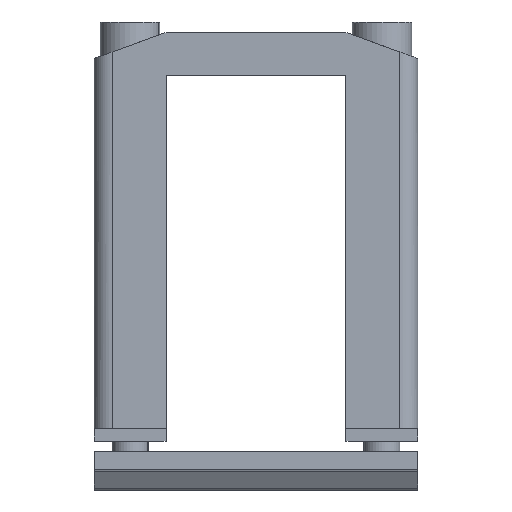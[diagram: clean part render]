
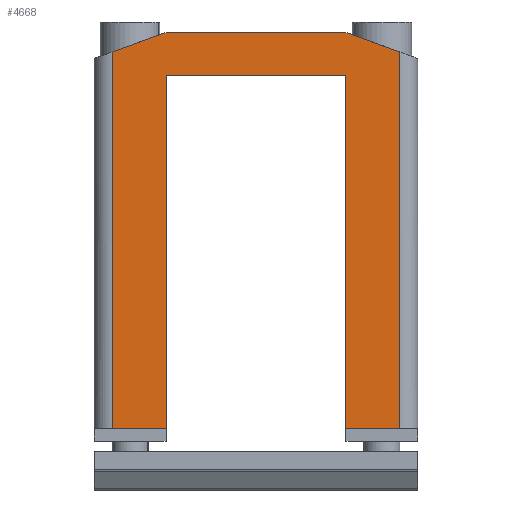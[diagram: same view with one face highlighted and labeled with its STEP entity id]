
A CAD part, top view. The second image highlights one B-rep face of the part: STEP entity #4668.
In plain terms, the highlighted planar face has unit normal (0, 0, 1).
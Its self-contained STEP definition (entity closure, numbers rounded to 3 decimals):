
#74 = LINE ( 'NONE', #1664, #2072 ) ;
#125 = VECTOR ( 'NONE', #1598, 1000. ) ;
#201 = EDGE_CURVE ( 'NONE', #7903, #5790, #1473, .T. ) ;
#510 = EDGE_CURVE ( 'NONE', #4651, #1542, #2220, .T. ) ;
#555 = CARTESIAN_POINT ( 'NONE',  ( -16.169, -5.935, 7.089 ) ) ;
#971 = DIRECTION ( 'NONE',  ( 0., -1., 0. ) ) ;
#978 = CARTESIAN_POINT ( 'NONE',  ( -41.169, 49.065, 7.089 ) ) ;
#1059 = ORIENTED_EDGE ( 'NONE', *, *, #201, .F. ) ;
#1187 = LINE ( 'NONE', #1320, #8876 ) ;
#1197 = CARTESIAN_POINT ( 'NONE',  ( -51.169, 45.426, 7.089 ) ) ;
#1246 = ORIENTED_EDGE ( 'NONE', *, *, #7500, .F. ) ;
#1290 = ORIENTED_EDGE ( 'NONE', *, *, #3538, .F. ) ;
#1320 = CARTESIAN_POINT ( 'NONE',  ( -16.169, 49.065, 7.089 ) ) ;
#1410 = VERTEX_POINT ( 'NONE', #9225 ) ;
#1412 = ORIENTED_EDGE ( 'NONE', *, *, #510, .T. ) ;
#1473 = LINE ( 'NONE', #9648, #5405 ) ;
#1542 = VERTEX_POINT ( 'NONE', #7873 ) ;
#1598 = DIRECTION ( 'NONE',  ( -1., 0., 0. ) ) ;
#1626 = VECTOR ( 'NONE', #2727, 1000. ) ;
#1664 = CARTESIAN_POINT ( 'NONE',  ( -48.669, -5.935, 7.089 ) ) ;
#1729 = VECTOR ( 'NONE', #3975, 1000. ) ;
#1775 = EDGE_CURVE ( 'NONE', #1410, #5790, #74, .T. ) ;
#1991 = PLANE ( 'NONE',  #8934 ) ;
#2072 = VECTOR ( 'NONE', #971, 1000. ) ;
#2085 = CARTESIAN_POINT ( 'NONE',  ( -48.669, -5.935, 7.089 ) ) ;
#2099 = DIRECTION ( 'NONE',  ( -1., 0., 0. ) ) ;
#2175 = EDGE_CURVE ( 'NONE', #7417, #8179, #2995, .T. ) ;
#2184 = EDGE_LOOP ( 'NONE', ( #1246, #1412, #9590, #2943, #7885, #6235, #1059, #4044, #9115, #1290 ) ) ;
#2220 = LINE ( 'NONE', #5457, #1729 ) ;
#2274 = VERTEX_POINT ( 'NONE', #9031 ) ;
#2402 = VECTOR ( 'NONE', #8354, 1000. ) ;
#2727 = DIRECTION ( 'NONE',  ( 0., -1., 0. ) ) ;
#2737 = CARTESIAN_POINT ( 'NONE',  ( -41.169, -5.935, 7.089 ) ) ;
#2943 = ORIENTED_EDGE ( 'NONE', *, *, #2175, .F. ) ;
#2946 = FACE_OUTER_BOUND ( 'NONE', #2184, .T. ) ;
#2995 = LINE ( 'NONE', #4607, #8683 ) ;
#3075 = CARTESIAN_POINT ( 'NONE',  ( -16.169, 43.065, 7.089 ) ) ;
#3194 = EDGE_CURVE ( 'NONE', #1410, #7417, #8009, .T. ) ;
#3538 = EDGE_CURVE ( 'NONE', #5991, #4732, #5146, .T. ) ;
#3551 = CARTESIAN_POINT ( 'NONE',  ( -6.169, -5.935, 7.089 ) ) ;
#3975 = DIRECTION ( 'NONE',  ( 0., 1., 0. ) ) ;
#4044 = ORIENTED_EDGE ( 'NONE', *, *, #7187, .F. ) ;
#4067 = VECTOR ( 'NONE', #6439, 1000. ) ;
#4607 = CARTESIAN_POINT ( 'NONE',  ( -41.169, 49.065, 7.089 ) ) ;
#4651 = VERTEX_POINT ( 'NONE', #8679 ) ;
#4668 = ADVANCED_FACE ( 'NONE', ( #2946 ), #1991, .F. ) ;
#4709 = EDGE_CURVE ( 'NONE', #8179, #1542, #1187, .T. ) ;
#4732 = VERTEX_POINT ( 'NONE', #8905 ) ;
#4970 = LINE ( 'NONE', #7116, #1626 ) ;
#5146 = LINE ( 'NONE', #8294, #2402 ) ;
#5405 = VECTOR ( 'NONE', #6570, 1000. ) ;
#5457 = CARTESIAN_POINT ( 'NONE',  ( -8.669, 45.426, 7.089 ) ) ;
#5790 = VERTEX_POINT ( 'NONE', #2085 ) ;
#5807 = LINE ( 'NONE', #3075, #125 ) ;
#5991 = VERTEX_POINT ( 'NONE', #555 ) ;
#6105 = EDGE_CURVE ( 'NONE', #4732, #2274, #5807, .T. ) ;
#6235 = ORIENTED_EDGE ( 'NONE', *, *, #1775, .T. ) ;
#6439 = DIRECTION ( 'NONE',  ( 0.94, 0.342, 0. ) ) ;
#6570 = DIRECTION ( 'NONE',  ( -1., 0., 0. ) ) ;
#6574 = CARTESIAN_POINT ( 'NONE',  ( -16.169, 49.065, 7.089 ) ) ;
#6585 = VECTOR ( 'NONE', #2099, 1000. ) ;
#7116 = CARTESIAN_POINT ( 'NONE',  ( -41.169, 43.065, 7.089 ) ) ;
#7159 = DIRECTION ( 'NONE',  ( -1., 0., 0. ) ) ;
#7187 = EDGE_CURVE ( 'NONE', #2274, #7903, #4970, .T. ) ;
#7266 = DIRECTION ( 'NONE',  ( 0.94, -0.342, 0. ) ) ;
#7417 = VERTEX_POINT ( 'NONE', #978 ) ;
#7500 = EDGE_CURVE ( 'NONE', #4651, #5991, #7539, .T. ) ;
#7539 = LINE ( 'NONE', #3551, #6585 ) ;
#7873 = CARTESIAN_POINT ( 'NONE',  ( -8.669, 46.336, 7.089 ) ) ;
#7885 = ORIENTED_EDGE ( 'NONE', *, *, #3194, .F. ) ;
#7903 = VERTEX_POINT ( 'NONE', #2737 ) ;
#8009 = LINE ( 'NONE', #1197, #4067 ) ;
#8179 = VERTEX_POINT ( 'NONE', #6574 ) ;
#8294 = CARTESIAN_POINT ( 'NONE',  ( -16.169, -7.735, 7.089 ) ) ;
#8354 = DIRECTION ( 'NONE',  ( 0., 1., 0. ) ) ;
#8679 = CARTESIAN_POINT ( 'NONE',  ( -8.669, -5.935, 7.089 ) ) ;
#8683 = VECTOR ( 'NONE', #8899, 1000. ) ;
#8876 = VECTOR ( 'NONE', #7266, 1000. ) ;
#8899 = DIRECTION ( 'NONE',  ( 1., 0., 0. ) ) ;
#8905 = CARTESIAN_POINT ( 'NONE',  ( -16.169, 43.065, 7.089 ) ) ;
#8934 = AXIS2_PLACEMENT_3D ( 'NONE', #9514, #9450, #7159 ) ;
#9031 = CARTESIAN_POINT ( 'NONE',  ( -41.169, 43.065, 7.089 ) ) ;
#9115 = ORIENTED_EDGE ( 'NONE', *, *, #6105, .F. ) ;
#9225 = CARTESIAN_POINT ( 'NONE',  ( -48.669, 46.336, 7.089 ) ) ;
#9450 = DIRECTION ( 'NONE',  ( 0., 0., -1. ) ) ;
#9514 = CARTESIAN_POINT ( 'NONE',  ( 0., 0., 7.089 ) ) ;
#9590 = ORIENTED_EDGE ( 'NONE', *, *, #4709, .F. ) ;
#9648 = CARTESIAN_POINT ( 'NONE',  ( -6.168, -5.935, 7.089 ) ) ;
